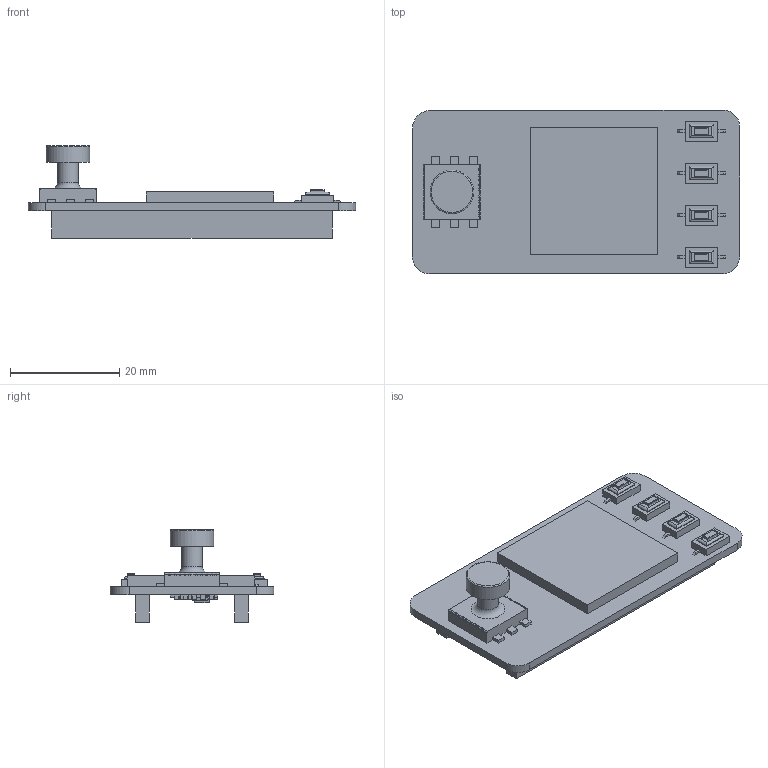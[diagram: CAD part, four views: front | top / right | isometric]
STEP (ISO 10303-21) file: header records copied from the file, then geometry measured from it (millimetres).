
FILE_DESCRIPTION(/* description */ (''),/* implementation_level */ '2;1');
FILE_NAME(/* name */ '1.3inch_Pico_rev1.1.stp',/* time_stamp */ '2025-08-19T09:00:13+08:00',/* author */ (''),/* organization */ (''),/* preprocessor_version */ 'ST-DEVELOPER v16.7',/* originating_system */ 'SIEMENS PLM Software NX 12.0',/* authorisation */ '');
FILE_SCHEMA (('AUTOMOTIVE_DESIGN { 1 0 10303 214 3 1 1 1 }'));
Length unit declared in the file: millimetre
Products named in the file (33): C_06033617; LOGO_; SOT23-3; SOT23-5-2; User_Library-R0603-2; Open CASCADE STEP translator 6.8 5.1.1; Ayuananjian1; Apiangmu; A方形按键; Apaizhen; C_0603; C2; C6; C7; C8; C9; C10; C11; C13; C14; Q1; R1; R2; R3; C1; C3; C4; U1; C5; R4; C12; Board; 1.3inch_Pico_rev1.1_step
Assembly tree (52 placements, depth 4):
  1.3inch_Pico_rev1.1_step
    Board
      Open CASCADE STEP translator 6.8 5.1.1
    C12
      C_0603
        LOGO_
        C_06033617
    R4
      User_Library-R0603-2
    C5
      C_0603
        LOGO_
        C_06033617
    U1
      SOT23-5-2
    C4
      C_0603
        LOGO_
        C_06033617
    C3
      C_0603
        LOGO_
        C_06033617
    C1
      C_0603
        LOGO_
        C_06033617
    R3
      User_Library-R0603-2
    R2
      User_Library-R0603-2
    R1
      User_Library-R0603-2
    Q1
      SOT23-3
    C14
      C_0603
        LOGO_
        C_06033617
    C13
      C_0603
        LOGO_
        C_06033617
    C11
      C_0603
        LOGO_
        C_06033617
    C10
      C_0603
        LOGO_
        C_06033617
    C9
      C_0603
        LOGO_
        C_06033617
    C8
      C_0603
        LOGO_
        C_06033617
    C7
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Bounding box: 60 x 30 x 16.9 mm (x, y, z)
Volume: 5283.6 mm3; surface area: 9066.8 mm2
Topology: 295 solids, 295 shells, 3838 faces, 9065 edges, 5836 vertices
Faces by surface type: plane 1934, bspline 1204, cylinder 584, sphere 114, torus 2
Full cylindrical faces by diameter (mm): 0.9 x2, 3.8 x1, 8 x1
Entity records: 30846 total; most frequent: CARTESIAN_POINT 11767, ORIENTED_EDGE 3494, DIRECTION 3006, EDGE_CURVE 1747, LINE 1324, VECTOR 1324, VERTEX_POINT 1148, AXIS2_PLACEMENT_3D 841
